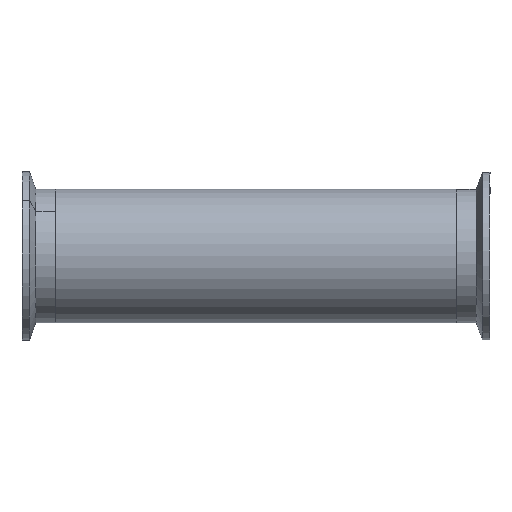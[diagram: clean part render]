
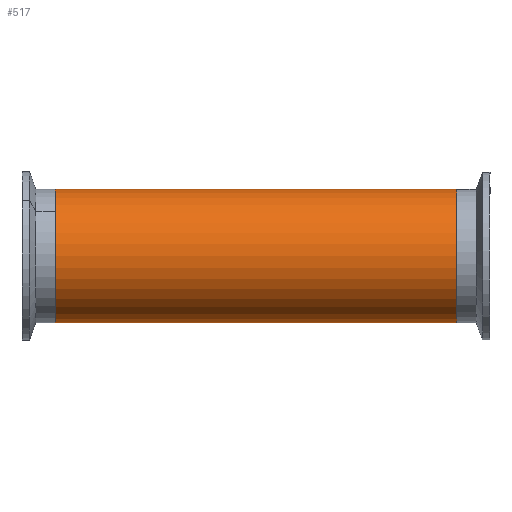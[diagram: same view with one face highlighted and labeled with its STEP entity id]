
A CAD part, front view. The second image highlights one B-rep face of the part: STEP entity #517.
In plain terms, the highlighted cylindrical face has radius 25.4 mm (diameter 50.8 mm), a partial arc.
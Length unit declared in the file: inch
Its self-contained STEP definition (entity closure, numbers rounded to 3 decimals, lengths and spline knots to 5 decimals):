
#4 = ORIENTED_EDGE ( 'NONE', *, *, #1582, .F. ) ;
#30 = ORIENTED_EDGE ( 'NONE', *, *, #1248, .F. ) ;
#31 = CARTESIAN_POINT ( 'NONE',  ( 3., 0., -1. ) ) ;
#59 = LINE ( 'NONE', #1746, #1239 ) ;
#80 = CARTESIAN_POINT ( 'NONE',  ( -3., 0., 0. ) ) ;
#145 = CARTESIAN_POINT ( 'NONE',  ( 3., 0., 0. ) ) ;
#288 = DIRECTION ( 'NONE',  ( 0., 0., 1. ) ) ;
#328 = CIRCLE ( 'NONE', #1871, 1. ) ;
#517 = ADVANCED_FACE ( 'NONE', ( #560 ), #1034, .T. ) ;
#520 = CARTESIAN_POINT ( 'NONE',  ( 3., 0., -1. ) ) ;
#560 = FACE_OUTER_BOUND ( 'NONE', #1917, .T. ) ;
#577 = VERTEX_POINT ( 'NONE', #520 ) ;
#644 = DIRECTION ( 'NONE',  ( 0., 0., -1. ) ) ;
#697 = DIRECTION ( 'NONE',  ( -1., 0., 0. ) ) ;
#781 = AXIS2_PLACEMENT_3D ( 'NONE', #1293, #1893, #1781 ) ;
#842 = VECTOR ( 'NONE', #697, 39.37008 ) ;
#857 = VERTEX_POINT ( 'NONE', #886 ) ;
#886 = CARTESIAN_POINT ( 'NONE',  ( -3., 0., 1. ) ) ;
#966 = VERTEX_POINT ( 'NONE', #1985 ) ;
#1010 = ORIENTED_EDGE ( 'NONE', *, *, #1455, .T. ) ;
#1034 = CYLINDRICAL_SURFACE ( 'NONE', #1659, 1. ) ;
#1114 = VERTEX_POINT ( 'NONE', #1636 ) ;
#1125 = ORIENTED_EDGE ( 'NONE', *, *, #1580, .T. ) ;
#1208 = DIRECTION ( 'NONE',  ( -1., 0., 0. ) ) ;
#1239 = VECTOR ( 'NONE', #1598, 39.37008 ) ;
#1248 = EDGE_CURVE ( 'NONE', #577, #1114, #1863, .T. ) ;
#1293 = CARTESIAN_POINT ( 'NONE',  ( 3., 0., 0. ) ) ;
#1307 = CIRCLE ( 'NONE', #781, 1. ) ;
#1309 = DIRECTION ( 'NONE',  ( 1., 0., 0. ) ) ;
#1455 = EDGE_CURVE ( 'NONE', #857, #1114, #328, .T. ) ;
#1580 = EDGE_CURVE ( 'NONE', #966, #857, #59, .T. ) ;
#1582 = EDGE_CURVE ( 'NONE', #966, #577, #1307, .T. ) ;
#1598 = DIRECTION ( 'NONE',  ( -1., 0., 0. ) ) ;
#1636 = CARTESIAN_POINT ( 'NONE',  ( -3., 0., -1. ) ) ;
#1659 = AXIS2_PLACEMENT_3D ( 'NONE', #145, #1208, #288 ) ;
#1746 = CARTESIAN_POINT ( 'NONE',  ( 3., 0., 1. ) ) ;
#1781 = DIRECTION ( 'NONE',  ( 0., 0., -1. ) ) ;
#1863 = LINE ( 'NONE', #31, #842 ) ;
#1871 = AXIS2_PLACEMENT_3D ( 'NONE', #80, #1309, #644 ) ;
#1893 = DIRECTION ( 'NONE',  ( 1., 0., 0. ) ) ;
#1917 = EDGE_LOOP ( 'NONE', ( #30, #4, #1125, #1010 ) ) ;
#1985 = CARTESIAN_POINT ( 'NONE',  ( 3., 0., 1. ) ) ;
